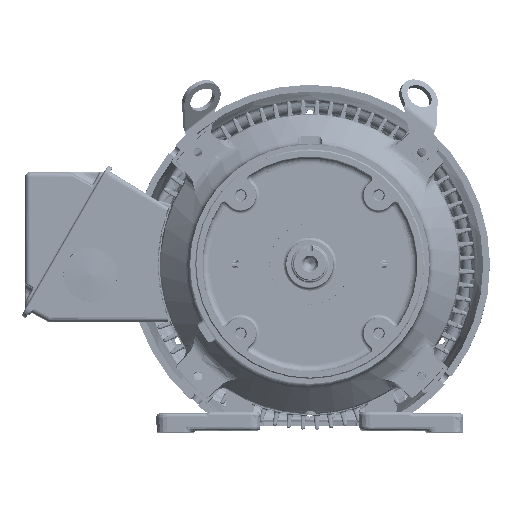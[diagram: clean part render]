
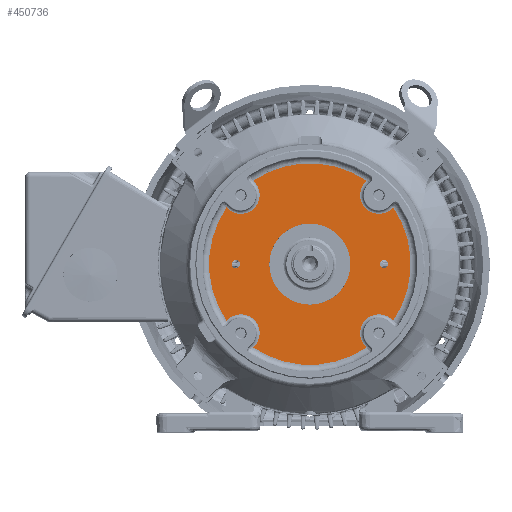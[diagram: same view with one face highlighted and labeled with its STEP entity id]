
A CAD part, top view. The second image highlights one B-rep face of the part: STEP entity #450736.
In plain terms, the highlighted planar face has unit normal (0, 0, 1) as drawn and (0, 0, -1) by its records, which use the part's own axes.
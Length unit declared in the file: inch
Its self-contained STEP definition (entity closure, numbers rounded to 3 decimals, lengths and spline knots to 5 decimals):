
#443605=CARTESIAN_POINT('',(0.,0.,-2.266));
#443606=DIRECTION('',(0.,0.,-1.));
#443607=DIRECTION('',(-0.827,-0.563,0.));
#443608=AXIS2_PLACEMENT_3D('',#443605,#443606,#443607);
#443620=CARTESIAN_POINT('',(0.,0.,-2.266));
#443621=DIRECTION('',(0.,0.,-1.));
#443622=DIRECTION('',(0.563,-0.827,0.));
#443623=AXIS2_PLACEMENT_3D('',#443620,#443621,#443622);
#443625=CARTESIAN_POINT('',(0.,0.,-2.266));
#443626=DIRECTION('',(0.,0.,-1.));
#443627=DIRECTION('',(-0.563,0.827,0.));
#443628=AXIS2_PLACEMENT_3D('',#443625,#443626,#443627);
#443635=CARTESIAN_POINT('',(0.,0.,-2.266));
#443636=DIRECTION('',(0.,0.,-1.));
#443637=DIRECTION('',(0.827,0.563,0.));
#443638=AXIS2_PLACEMENT_3D('',#443635,#443636,#443637);
#443660=CARTESIAN_POINT('',(-3.09494,-2.10574,
-2.266));
#443679=DIRECTION('',(-0.725,-0.688,
0.));
#443680=VECTOR('',#443679,0.07073);
#443681=CARTESIAN_POINT('',(-3.04364,-2.05705,-2.266));
#443682=LINE('',#443681,#443680);
#443693=CARTESIAN_POINT('',(-2.56326,-2.56326,-2.266));
#443694=DIRECTION('',(0.,0.,1.));
#443695=DIRECTION('',(0.725,-0.688,0.));
#443696=AXIS2_PLACEMENT_3D('',#443693,#443694,#443695);
#443707=DIRECTION('',(0.688,0.725,0.));
#443708=VECTOR('',#443707,0.07073);
#443709=CARTESIAN_POINT('',(-2.10574,-3.09494,
-2.266));
#443710=LINE('',#443709,#443708);
#443711=CARTESIAN_POINT('',(0.,0.,-2.266));
#443712=DIRECTION('',(0.,0.,1.));
#443713=DIRECTION('',(0.,1.,0.));
#443714=AXIS2_PLACEMENT_3D('',#443711,#443712,#443713);
#443716=CARTESIAN_POINT('',(0.,0.,-2.266));
#443717=DIRECTION('',(0.,0.,1.));
#443718=DIRECTION('',(0.,-1.,0.));
#443719=AXIS2_PLACEMENT_3D('',#443716,#443717,#443718);
#443721=CARTESIAN_POINT('',(2.75,0.,-2.266));
#443722=DIRECTION('',(0.,0.,1.));
#443723=DIRECTION('',(1.,0.,0.));
#443724=AXIS2_PLACEMENT_3D('',#443721,#443722,#443723);
#443726=CARTESIAN_POINT('',(2.75,0.,-2.266));
#443727=DIRECTION('',(0.,0.,1.));
#443728=DIRECTION('',(-1.,0.,0.));
#443729=AXIS2_PLACEMENT_3D('',#443726,#443727,#443728);
#443731=CARTESIAN_POINT('',(-2.75,0.,-2.266));
#443732=DIRECTION('',(0.,0.,1.));
#443733=DIRECTION('',(-1.,0.,0.));
#443734=AXIS2_PLACEMENT_3D('',#443731,#443732,#443733);
#443736=CARTESIAN_POINT('',(-2.75,0.,-2.266));
#443737=DIRECTION('',(0.,0.,1.));
#443738=DIRECTION('',(1.,0.,0.));
#443739=AXIS2_PLACEMENT_3D('',#443736,#443737,#443738);
#446378=DIRECTION('',(0.688,-0.725,0.));
#446379=VECTOR('',#446378,0.07073);
#446380=CARTESIAN_POINT('',(2.05705,-3.04364,-2.266));
#446381=LINE('',#446380,#446379);
#446442=CARTESIAN_POINT('',(3.09494,-2.10574,
-2.266));
#446453=DIRECTION('',(-0.725,0.688,0.));
#446454=VECTOR('',#446453,0.07073);
#446455=CARTESIAN_POINT('',(3.09494,-2.10574,
-2.266));
#446456=LINE('',#446455,#446454);
#446467=CARTESIAN_POINT('',(2.56326,-2.56326,-2.266));
#446468=DIRECTION('',(0.,0.,1.));
#446469=DIRECTION('',(0.688,0.725,0.));
#446470=AXIS2_PLACEMENT_3D('',#446467,#446468,#446469);
#446532=DIRECTION('',(0.725,0.688,0.));
#446533=VECTOR('',#446532,0.07073);
#446534=CARTESIAN_POINT('',(3.04364,2.05705,-2.266));
#446535=LINE('',#446534,#446533);
#446596=CARTESIAN_POINT('',(2.10574,3.09494,
-2.266));
#446607=DIRECTION('',(-0.688,-0.725,0.));
#446608=VECTOR('',#446607,0.07073);
#446609=CARTESIAN_POINT('',(2.10574,3.09494,
-2.266));
#446610=LINE('',#446609,#446608);
#446621=CARTESIAN_POINT('',(2.56326,2.56326,-2.266));
#446622=DIRECTION('',(0.,0.,1.));
#446623=DIRECTION('',(-0.725,0.688,0.));
#446624=AXIS2_PLACEMENT_3D('',#446621,#446622,#446623);
#446686=DIRECTION('',(-0.688,0.725,0.));
#446687=VECTOR('',#446686,0.07073);
#446688=CARTESIAN_POINT('',(-2.05705,3.04364,-2.266));
#446689=LINE('',#446688,#446687);
#446759=CARTESIAN_POINT('',(-2.56326,2.56326,-2.266));
#446760=DIRECTION('',(0.,0.,1.));
#446761=DIRECTION('',(-0.688,-0.725,0.));
#446762=AXIS2_PLACEMENT_3D('',#446759,#446760,#446761);
#446773=DIRECTION('',(0.725,-0.688,0.));
#446774=VECTOR('',#446773,0.07073);
#446775=CARTESIAN_POINT('',(-3.09494,2.10574,
-2.266));
#446776=LINE('',#446775,#446774);
#446800=CARTESIAN_POINT('',(-3.09494,2.10574,
-2.266));
#447671=VERTEX_POINT('',#443660);
#447675=CARTESIAN_POINT('',(-3.04364,-2.05705,-2.266));
#447676=VERTEX_POINT('',#447675);
#447679=CARTESIAN_POINT('',(-2.05705,-3.04364,-2.266));
#447680=VERTEX_POINT('',#447679);
#447683=CARTESIAN_POINT('',(-2.10574,-3.09494,
-2.266));
#447684=VERTEX_POINT('',#447683);
#447690=VERTEX_POINT('',#446800);
#447693=CARTESIAN_POINT('',(-3.04364,2.05705,-2.266));
#447694=VERTEX_POINT('',#447693);
#447697=CARTESIAN_POINT('',(-2.05705,3.04364,-2.266));
#447698=VERTEX_POINT('',#447697);
#447701=CARTESIAN_POINT('',(-2.10574,3.09494,
-2.266));
#447702=VERTEX_POINT('',#447701);
#447708=VERTEX_POINT('',#446596);
#447711=CARTESIAN_POINT('',(2.05705,3.04364,-2.266));
#447712=VERTEX_POINT('',#447711);
#447715=CARTESIAN_POINT('',(3.04364,2.05705,-2.266));
#447716=VERTEX_POINT('',#447715);
#447719=CARTESIAN_POINT('',(3.09494,2.10574,
-2.266));
#447720=VERTEX_POINT('',#447719);
#447726=VERTEX_POINT('',#446442);
#447729=CARTESIAN_POINT('',(3.04364,-2.05705,-2.266));
#447730=VERTEX_POINT('',#447729);
#447733=CARTESIAN_POINT('',(2.05705,-3.04364,-2.266));
#447734=VERTEX_POINT('',#447733);
#447737=CARTESIAN_POINT('',(2.10574,-3.09494,
-2.266));
#447738=VERTEX_POINT('',#447737);
#447911=CARTESIAN_POINT('',(2.9055,0.,-2.266));
#447912=CARTESIAN_POINT('',(2.5945,0.,-2.266));
#447913=VERTEX_POINT('',#447911);
#447914=VERTEX_POINT('',#447912);
#447915=CARTESIAN_POINT('',(-2.9055,0.,-2.266));
#447916=CARTESIAN_POINT('',(-2.5945,0.,-2.266));
#447917=VERTEX_POINT('',#447915);
#447918=VERTEX_POINT('',#447916);
#448112=CARTESIAN_POINT('',(0.,1.5075,-2.266));
#448113=CARTESIAN_POINT('',(0.,-1.5075,-2.266));
#448114=VERTEX_POINT('',#448112);
#448115=VERTEX_POINT('',#448113);
#450686=CARTESIAN_POINT('',(0.,0.,-2.266));
#450687=DIRECTION('',(0.,0.,1.));
#450688=DIRECTION('',(0.,1.,0.));
#450689=AXIS2_PLACEMENT_3D('',#450686,#450687,#450688);
#450690=PLANE('',#450689);
#450691=ORIENTED_EDGE('',*,*,#450653,.F.);
#450692=ORIENTED_EDGE('',*,*,#450667,.F.);
#450693=ORIENTED_EDGE('',*,*,#450680,.F.);
#450694=ORIENTED_EDGE('',*,*,#450561,.F.);
#450696=ORIENTED_EDGE('',*,*,#450695,.F.);
#450698=ORIENTED_EDGE('',*,*,#450697,.F.);
#450700=ORIENTED_EDGE('',*,*,#450699,.F.);
#450701=ORIENTED_EDGE('',*,*,#450588,.F.);
#450703=ORIENTED_EDGE('',*,*,#450702,.F.);
#450705=ORIENTED_EDGE('',*,*,#450704,.F.);
#450707=ORIENTED_EDGE('',*,*,#450706,.F.);
#450708=ORIENTED_EDGE('',*,*,#450573,.F.);
#450710=ORIENTED_EDGE('',*,*,#450709,.F.);
#450712=ORIENTED_EDGE('',*,*,#450711,.F.);
#450714=ORIENTED_EDGE('',*,*,#450713,.F.);
#450715=ORIENTED_EDGE('',*,*,#450544,.F.);
#450716=EDGE_LOOP('',(#450691,#450692,#450693,#450694,#450696,#450698,#450700,
#450701,#450703,#450705,#450707,#450708,#450710,#450712,#450714,#450715));
#450717=FACE_OUTER_BOUND('',#450716,.F.);
#450719=ORIENTED_EDGE('',*,*,#450718,.F.);
#450721=ORIENTED_EDGE('',*,*,#450720,.F.);
#450722=EDGE_LOOP('',(#450719,#450721));
#450723=FACE_BOUND('',#450722,.F.);
#450725=ORIENTED_EDGE('',*,*,#450724,.F.);
#450727=ORIENTED_EDGE('',*,*,#450726,.F.);
#450728=EDGE_LOOP('',(#450725,#450727));
#450729=FACE_BOUND('',#450728,.F.);
#450731=ORIENTED_EDGE('',*,*,#450730,.F.);
#450733=ORIENTED_EDGE('',*,*,#450732,.F.);
#450734=EDGE_LOOP('',(#450731,#450733));
#450735=FACE_BOUND('',#450734,.F.);
#450736=ADVANCED_FACE('',(#450717,#450723,#450729,#450735),#450690,.F.);
#443609=CIRCLE('',#443608,3.74337);
#443624=CIRCLE('',#443623,3.74337);
#443629=CIRCLE('',#443628,3.74337);
#443639=CIRCLE('',#443638,3.74337);
#443697=CIRCLE('',#443696,0.69786);
#443715=CIRCLE('',#443714,1.5075);
#443720=CIRCLE('',#443719,1.5075);
#443725=CIRCLE('',#443724,0.1555);
#443730=CIRCLE('',#443729,0.1555);
#443735=CIRCLE('',#443734,0.1555);
#443740=CIRCLE('',#443739,0.1555);
#446471=CIRCLE('',#446470,0.69786);
#446625=CIRCLE('',#446624,0.69786);
#446763=CIRCLE('',#446762,0.69786);
#450544=EDGE_CURVE('',#447671,#447690,#443609,.T.);
#450561=EDGE_CURVE('',#447738,#447684,#443624,.T.);
#450573=EDGE_CURVE('',#447702,#447708,#443629,.T.);
#450588=EDGE_CURVE('',#447720,#447726,#443639,.T.);
#450653=EDGE_CURVE('',#447676,#447671,#443682,.T.);
#450667=EDGE_CURVE('',#447680,#447676,#443697,.T.);
#450680=EDGE_CURVE('',#447684,#447680,#443710,.T.);
#450695=EDGE_CURVE('',#447734,#447738,#446381,.T.);
#450697=EDGE_CURVE('',#447730,#447734,#446471,.T.);
#450699=EDGE_CURVE('',#447726,#447730,#446456,.T.);
#450702=EDGE_CURVE('',#447716,#447720,#446535,.T.);
#450704=EDGE_CURVE('',#447712,#447716,#446625,.T.);
#450706=EDGE_CURVE('',#447708,#447712,#446610,.T.);
#450709=EDGE_CURVE('',#447698,#447702,#446689,.T.);
#450711=EDGE_CURVE('',#447694,#447698,#446763,.T.);
#450713=EDGE_CURVE('',#447690,#447694,#446776,.T.);
#450718=EDGE_CURVE('',#447913,#447914,#443725,.T.);
#450720=EDGE_CURVE('',#447914,#447913,#443730,.T.);
#450724=EDGE_CURVE('',#447917,#447918,#443735,.T.);
#450726=EDGE_CURVE('',#447918,#447917,#443740,.T.);
#450730=EDGE_CURVE('',#448114,#448115,#443715,.T.);
#450732=EDGE_CURVE('',#448115,#448114,#443720,.T.);
